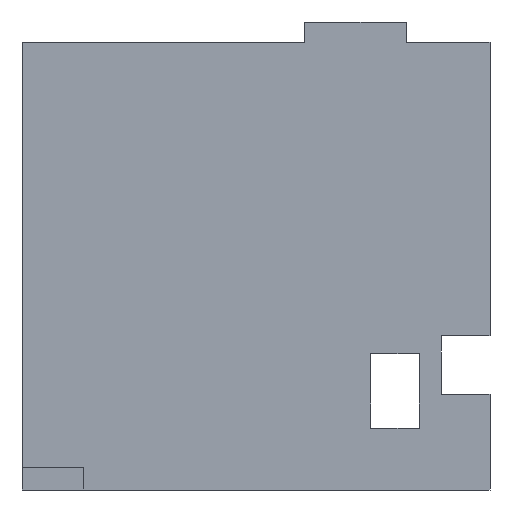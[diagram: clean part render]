
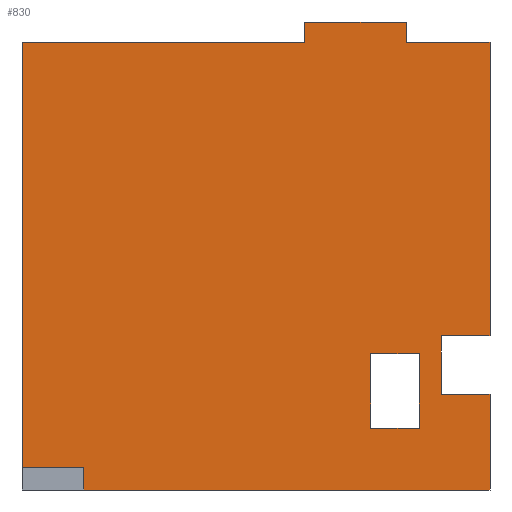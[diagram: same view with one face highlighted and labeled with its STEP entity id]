
A CAD part, left-side view. The second image highlights one B-rep face of the part: STEP entity #830.
In plain terms, the highlighted planar face has unit normal (-1, 0, 0).
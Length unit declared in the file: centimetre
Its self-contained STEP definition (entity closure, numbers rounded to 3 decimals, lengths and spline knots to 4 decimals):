
#4 = ORIENTED_EDGE ( 'NONE', *, *, #657, .T. ) ;
#16 = CARTESIAN_POINT ( 'NONE',  ( 0., 0., 329.3543 ) ) ;
#40 = CARTESIAN_POINT ( 'NONE',  ( 0., 254.6383, 132.1935 ) ) ;
#52 = VERTEX_POINT ( 'NONE', #1152 ) ;
#59 = DIRECTION ( 'NONE',  ( 0., 0., 1. ) ) ;
#89 = CARTESIAN_POINT ( 'NONE',  ( 0., 151.4226, 291.1814 ) ) ;
#119 = VECTOR ( 'NONE', #621, 100. ) ;
#128 = CARTESIAN_POINT ( 'NONE',  ( 0., 1000., 1000. ) ) ;
#135 = CARTESIAN_POINT ( 'NONE',  ( 0., 0., 1000. ) ) ;
#136 = VECTOR ( 'NONE', #1640, 100. ) ;
#149 = VECTOR ( 'NONE', #59, 100. ) ;
#159 = ORIENTED_EDGE ( 'NONE', *, *, #1339, .F. ) ;
#185 = LINE ( 'NONE', #1166, #1347 ) ;
#197 = ORIENTED_EDGE ( 'NONE', *, *, #1731, .F. ) ;
#200 = CARTESIAN_POINT ( 'NONE',  ( 0., 396.3617, 1000. ) ) ;
#213 = ORIENTED_EDGE ( 'NONE', *, *, #1426, .F. ) ;
#214 = ORIENTED_EDGE ( 'NONE', *, *, #1443, .F. ) ;
#216 = VERTEX_POINT ( 'NONE', #16 ) ;
#233 = CARTESIAN_POINT ( 'NONE',  ( 0., 1000., 0. ) ) ;
#236 = LINE ( 'NONE', #819, #489 ) ;
#241 = ORIENTED_EDGE ( 'NONE', *, *, #509, .T. ) ;
#271 = VERTEX_POINT ( 'NONE', #1393 ) ;
#272 = LINE ( 'NONE', #1707, #723 ) ;
#281 = DIRECTION ( 'NONE',  ( 0., -1., 0. ) ) ;
#282 = VECTOR ( 'NONE', #659, 100. ) ;
#284 = LINE ( 'NONE', #848, #1162 ) ;
#292 = EDGE_CURVE ( 'NONE', #271, #216, #989, .T. ) ;
#293 = DIRECTION ( 'NONE',  ( 0., 0., -1. ) ) ;
#300 = LINE ( 'NONE', #135, #1527 ) ;
#306 = LINE ( 'NONE', #1043, #599 ) ;
#324 = LINE ( 'NONE', #740, #1106 ) ;
#370 = LINE ( 'NONE', #40, #1102 ) ;
#395 = VECTOR ( 'NONE', #281, 100. ) ;
#401 = EDGE_CURVE ( 'NONE', #1271, #791, #306, .T. ) ;
#411 = CARTESIAN_POINT ( 'NONE',  ( 0., 0., 329.3543 ) ) ;
#422 = ORIENTED_EDGE ( 'NONE', *, *, #948, .F. ) ;
#423 = LINE ( 'NONE', #972, #395 ) ;
#445 = VECTOR ( 'NONE', #993, 100. ) ;
#452 = ORIENTED_EDGE ( 'NONE', *, *, #939, .F. ) ;
#458 = VERTEX_POINT ( 'NONE', #707 ) ;
#474 = ORIENTED_EDGE ( 'NONE', *, *, #1655, .F. ) ;
#484 = EDGE_LOOP ( 'NONE', ( #1081, #1011, #197, #789 ) ) ;
#489 = VECTOR ( 'NONE', #801, 100. ) ;
#494 = CARTESIAN_POINT ( 'NONE',  ( 0., 867.7104, 47.1119 ) ) ;
#509 = EDGE_CURVE ( 'NONE', #1500, #612, #1216, .T. ) ;
#530 = VERTEX_POINT ( 'NONE', #1505 ) ;
#586 = EDGE_CURVE ( 'NONE', #530, #1588, #932, .T. ) ;
#599 = VECTOR ( 'NONE', #1295, 100. ) ;
#600 = CARTESIAN_POINT ( 'NONE',  ( 0., 1000., 1000. ) ) ;
#604 = ORIENTED_EDGE ( 'NONE', *, *, #1335, .F. ) ;
#612 = VERTEX_POINT ( 'NONE', #1469 ) ;
#621 = DIRECTION ( 'NONE',  ( 0., 1., 0. ) ) ;
#628 = DIRECTION ( 'NONE',  ( 0., -1., 0. ) ) ;
#657 = EDGE_CURVE ( 'NONE', #1818, #1369, #1357, .T. ) ;
#659 = DIRECTION ( 'NONE',  ( 0., 1., 0. ) ) ;
#662 = VECTOR ( 'NONE', #1350, 100. ) ;
#675 = VERTEX_POINT ( 'NONE', #1344 ) ;
#690 = CARTESIAN_POINT ( 'NONE',  ( 0., 0., 1000. ) ) ;
#707 = CARTESIAN_POINT ( 'NONE',  ( 0., 396.3617, 956.4511 ) ) ;
#723 = VECTOR ( 'NONE', #827, 100. ) ;
#740 = CARTESIAN_POINT ( 'NONE',  ( 0., 178.6044, 956.4511 ) ) ;
#770 = CARTESIAN_POINT ( 'NONE',  ( 0., 178.6044, 956.4511 ) ) ;
#789 = ORIENTED_EDGE ( 'NONE', *, *, #1229, .F. ) ;
#791 = VERTEX_POINT ( 'NONE', #1239 ) ;
#801 = DIRECTION ( 'NONE',  ( 0., 1., 0. ) ) ;
#807 = EDGE_LOOP ( 'NONE', ( #1306, #214, #422, #1467, #474, #1543, #241, #1180, #159, #4, #604, #213, #1788, #452 ) ) ;
#808 = DIRECTION ( 'NONE',  ( 0., 0., -1. ) ) ;
#819 = CARTESIAN_POINT ( 'NONE',  ( 0., 396.3617, 956.4511 ) ) ;
#827 = DIRECTION ( 'NONE',  ( 0., 0., 1. ) ) ;
#828 = DIRECTION ( 'NONE',  ( 1., 0., 0. ) ) ;
#830 = ADVANCED_FACE ( 'NONE', ( #1716, #1435 ), #1723, .F. ) ;
#848 = CARTESIAN_POINT ( 'NONE',  ( 0., 178.6044, 956.4511 ) ) ;
#864 = DIRECTION ( 'NONE',  ( 0., 0., -1. ) ) ;
#882 = LINE ( 'NONE', #600, #1693 ) ;
#895 = CARTESIAN_POINT ( 'NONE',  ( 0., 396.3617, 956.4511 ) ) ;
#918 = DIRECTION ( 'NONE',  ( 0., 0., -1. ) ) ;
#932 = LINE ( 'NONE', #1050, #136 ) ;
#938 = CARTESIAN_POINT ( 'NONE',  ( 0., 867.7104, 0. ) ) ;
#939 = EDGE_CURVE ( 'NONE', #216, #530, #1829, .T. ) ;
#948 = EDGE_CURVE ( 'NONE', #675, #1021, #284, .T. ) ;
#972 = CARTESIAN_POINT ( 'NONE',  ( 0., 151.4226, 132.1935 ) ) ;
#987 = EDGE_CURVE ( 'NONE', #1599, #675, #882, .T. ) ;
#989 = LINE ( 'NONE', #690, #1406 ) ;
#993 = DIRECTION ( 'NONE',  ( 0., 1., 0. ) ) ;
#999 = CARTESIAN_POINT ( 'NONE',  ( 0., 151.4226, 132.1935 ) ) ;
#1011 = ORIENTED_EDGE ( 'NONE', *, *, #1283, .F. ) ;
#1021 = VERTEX_POINT ( 'NONE', #770 ) ;
#1027 = CARTESIAN_POINT ( 'NONE',  ( 0., 103.8442, 204.3048 ) ) ;
#1043 = CARTESIAN_POINT ( 'NONE',  ( 0., 151.4226, 132.1935 ) ) ;
#1049 = VERTEX_POINT ( 'NONE', #1625 ) ;
#1050 = CARTESIAN_POINT ( 'NONE',  ( 0., 103.8442, 204.3048 ) ) ;
#1064 = LINE ( 'NONE', #895, #149 ) ;
#1081 = ORIENTED_EDGE ( 'NONE', *, *, #401, .F. ) ;
#1102 = VECTOR ( 'NONE', #918, 100. ) ;
#1106 = VECTOR ( 'NONE', #1481, 100. ) ;
#1113 = VERTEX_POINT ( 'NONE', #1236 ) ;
#1122 = EDGE_CURVE ( 'NONE', #458, #1500, #236, .T. ) ;
#1140 = DIRECTION ( 'NONE',  ( 0., 0., -1. ) ) ;
#1152 = CARTESIAN_POINT ( 'NONE',  ( 0., 254.6383, 132.1935 ) ) ;
#1162 = VECTOR ( 'NONE', #293, 100. ) ;
#1166 = CARTESIAN_POINT ( 'NONE',  ( 0., 0., 204.3048 ) ) ;
#1180 = ORIENTED_EDGE ( 'NONE', *, *, #1812, .F. ) ;
#1191 = AXIS2_PLACEMENT_3D ( 'NONE', #128, #828, #864 ) ;
#1216 = LINE ( 'NONE', #1361, #662 ) ;
#1229 = EDGE_CURVE ( 'NONE', #791, #1374, #1652, .T. ) ;
#1236 = CARTESIAN_POINT ( 'NONE',  ( 0., 867.7104, 47.1119 ) ) ;
#1239 = CARTESIAN_POINT ( 'NONE',  ( 0., 151.4226, 291.1814 ) ) ;
#1271 = VERTEX_POINT ( 'NONE', #999 ) ;
#1283 = EDGE_CURVE ( 'NONE', #52, #1271, #423, .T. ) ;
#1295 = DIRECTION ( 'NONE',  ( 0., 0., 1. ) ) ;
#1306 = ORIENTED_EDGE ( 'NONE', *, *, #292, .F. ) ;
#1322 = CARTESIAN_POINT ( 'NONE',  ( 0., 1000., 956.4511 ) ) ;
#1335 = EDGE_CURVE ( 'NONE', #1049, #1369, #300, .T. ) ;
#1339 = EDGE_CURVE ( 'NONE', #1818, #1113, #272, .T. ) ;
#1344 = CARTESIAN_POINT ( 'NONE',  ( 0., 178.6044, 1000. ) ) ;
#1347 = VECTOR ( 'NONE', #1757, 100. ) ;
#1350 = DIRECTION ( 'NONE',  ( 0., 0., -1. ) ) ;
#1357 = LINE ( 'NONE', #233, #1764 ) ;
#1361 = CARTESIAN_POINT ( 'NONE',  ( 0., 1000., 1000. ) ) ;
#1369 = VERTEX_POINT ( 'NONE', #1440 ) ;
#1374 = VERTEX_POINT ( 'NONE', #1416 ) ;
#1393 = CARTESIAN_POINT ( 'NONE',  ( 0., 0., 956.4511 ) ) ;
#1406 = VECTOR ( 'NONE', #808, 100. ) ;
#1416 = CARTESIAN_POINT ( 'NONE',  ( 0., 254.6383, 291.1814 ) ) ;
#1426 = EDGE_CURVE ( 'NONE', #1588, #1049, #185, .T. ) ;
#1435 = FACE_OUTER_BOUND ( 'NONE', #807, .T. ) ;
#1440 = CARTESIAN_POINT ( 'NONE',  ( 0., 0., 0. ) ) ;
#1443 = EDGE_CURVE ( 'NONE', #1021, #271, #324, .T. ) ;
#1467 = ORIENTED_EDGE ( 'NONE', *, *, #987, .F. ) ;
#1469 = CARTESIAN_POINT ( 'NONE',  ( 0., 1000., 47.1119 ) ) ;
#1481 = DIRECTION ( 'NONE',  ( 0., -1., 0. ) ) ;
#1500 = VERTEX_POINT ( 'NONE', #1322 ) ;
#1505 = CARTESIAN_POINT ( 'NONE',  ( 0., 103.8442, 329.3543 ) ) ;
#1527 = VECTOR ( 'NONE', #1140, 100. ) ;
#1543 = ORIENTED_EDGE ( 'NONE', *, *, #1122, .T. ) ;
#1588 = VERTEX_POINT ( 'NONE', #1027 ) ;
#1599 = VERTEX_POINT ( 'NONE', #200 ) ;
#1625 = CARTESIAN_POINT ( 'NONE',  ( 0., 0., 204.3048 ) ) ;
#1640 = DIRECTION ( 'NONE',  ( 0., 0., -1. ) ) ;
#1652 = LINE ( 'NONE', #89, #282 ) ;
#1655 = EDGE_CURVE ( 'NONE', #458, #1599, #1064, .T. ) ;
#1693 = VECTOR ( 'NONE', #628, 100. ) ;
#1707 = CARTESIAN_POINT ( 'NONE',  ( 0., 867.7104, 0. ) ) ;
#1716 = FACE_BOUND ( 'NONE', #484, .T. ) ;
#1723 = PLANE ( 'NONE',  #1191 ) ;
#1731 = EDGE_CURVE ( 'NONE', #1374, #52, #370, .T. ) ;
#1745 = DIRECTION ( 'NONE',  ( 0., -1., 0. ) ) ;
#1757 = DIRECTION ( 'NONE',  ( 0., -1., 0. ) ) ;
#1764 = VECTOR ( 'NONE', #1745, 100. ) ;
#1771 = LINE ( 'NONE', #494, #119 ) ;
#1788 = ORIENTED_EDGE ( 'NONE', *, *, #586, .F. ) ;
#1812 = EDGE_CURVE ( 'NONE', #1113, #612, #1771, .T. ) ;
#1818 = VERTEX_POINT ( 'NONE', #938 ) ;
#1829 = LINE ( 'NONE', #411, #445 ) ;
